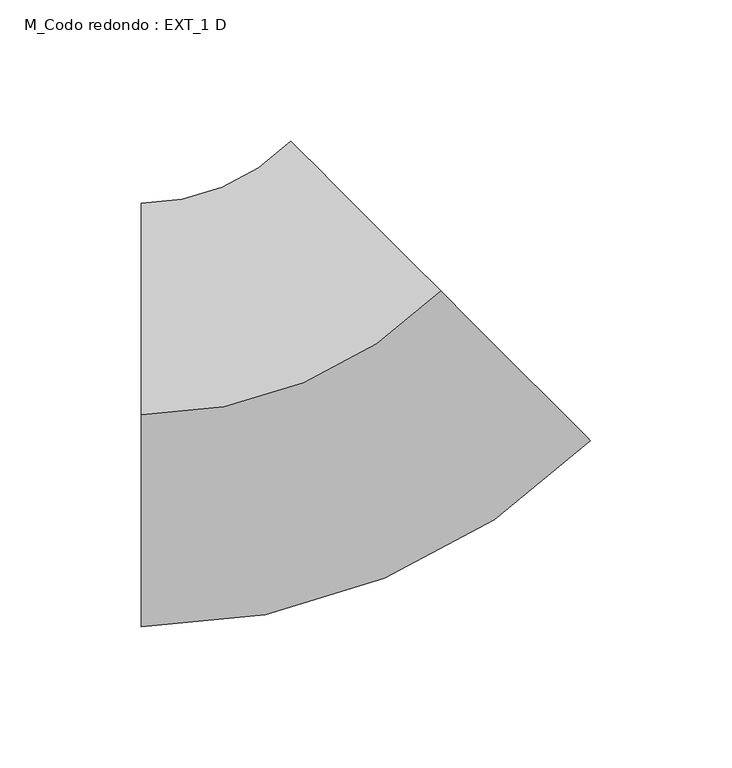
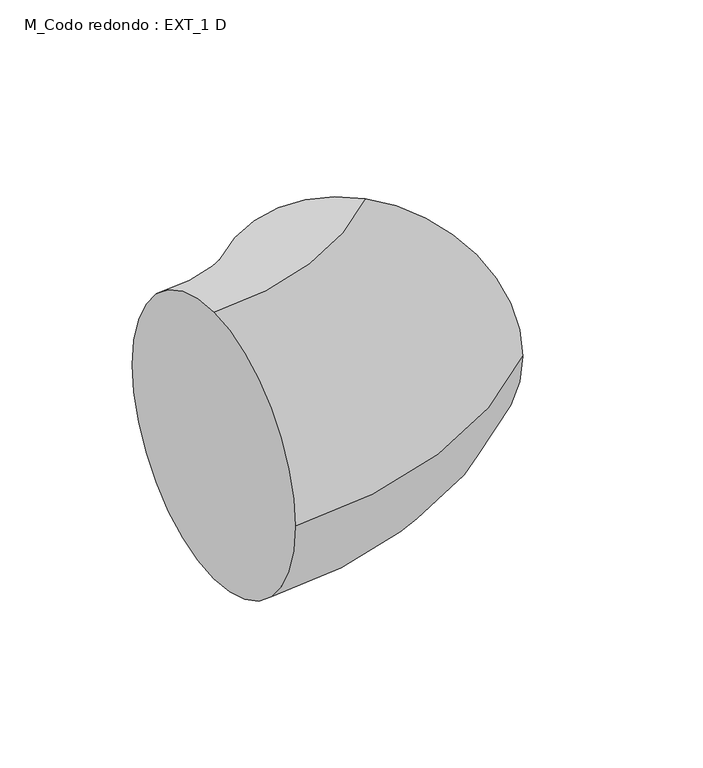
"""IFC4 building model written with IfcOpenShell, lengths in millimetres: duct fitting geometry, M_Codo redondo : EXT_1 D."""

from ifc_helpers import new_model, si_unit, point, frame, origin, place, context, project, spatial, circle_curve, ellipse_curve, trimmed, source, transform, mapped, element, save
from ifc_brep_helpers import plane_surface, revolved_surface, advanced_brep


def m_codo_redondo_ext_1_d_18db741d(model_context):
    return source(origin(), model_context, "Body", "AdvancedBrep", [
        advanced_brep(
        [(-62.1320344, 0.0, 75.0), (-62.1320344, 75.0, 0.0), (-62.1320344, 0.0, -75.0), (-62.1320344, -75.0, 0.0), (43.9339828, 43.9339828, 75.0), (96.9669914, -9.0990258, 0.0), (43.9339828, 43.9339828, -75.0), (-9.0990258, 96.9669914, 0.0)],
        [
            (0, 1, circle_curve(frame((-62.1320344, 0.0, 0.0), z_axis=(-1.0, 0.0, 0.0), x_axis=(0.0, 1.0, 0.0)), 75.0)),
            (1, 2, circle_curve(frame((-62.1320344, 0.0, 0.0), z_axis=(-1.0, 0.0, 0.0), x_axis=(0.0, 1.0, 0.0)), 75.0)),
            (2, 3, circle_curve(frame((-62.1320344, 0.0, 0.0), z_axis=(-1.0, 0.0, 0.0), x_axis=(0.0, 1.0, 0.0)), 75.0)),
            (3, 0, circle_curve(frame((-62.1320344, 0.0, 0.0), z_axis=(-1.0, 0.0, 0.0), x_axis=(0.0, 1.0, 0.0)), 75.0)),
            (4, 5, circle_curve(frame((43.9339828, 43.9339828, 0.0), z_axis=(0.7071067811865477, 0.7071067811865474, 0.0), x_axis=(-0.7071067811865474, 0.7071067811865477, 0.0)), 75.0)),
            (5, 6, circle_curve(frame((43.9339828, 43.9339828, 0.0), z_axis=(0.7071067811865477, 0.7071067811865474, 0.0), x_axis=(-0.7071067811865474, 0.7071067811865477, 0.0)), 75.0)),
            (6, 7, circle_curve(frame((43.9339828, 43.9339828, 0.0), z_axis=(0.7071067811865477, 0.7071067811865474, 0.0), x_axis=(-0.7071067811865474, 0.7071067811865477, 0.0)), 75.0)),
            (7, 4, circle_curve(frame((43.9339828, 43.9339828, 0.0), z_axis=(0.7071067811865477, 0.7071067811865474, 0.0), x_axis=(-0.7071067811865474, 0.7071067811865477, 0.0)), 75.0)),
            (7, 1, circle_curve(frame((-62.1320344, 150.0, 0.0), z_axis=(0.0, 0.0, -1.0), x_axis=(0.0, -1.0, 0.0)), 75.0)),
            (0, 4, circle_curve(frame((-62.1320344, 150.0, 75.0), z_axis=(0.0, 0.0, 1.0), x_axis=(0.0, -1.0, 0.0)), 150.0)),
            (6, 2, circle_curve(frame((-62.1320344, 150.0, -75.0), z_axis=(0.0, 0.0, -1.0), x_axis=(0.0, -1.0, 0.0)), 150.0)),
            (5, 3, circle_curve(frame((-62.1320344, 150.0, 0.0), z_axis=(0.0, 0.0, -1.0), x_axis=(0.0, -1.0, 0.0)), 225.0)),
        ],
        [
            plane_surface(frame((-62.1320344, 0.0, 0.0), z_axis=(-1.0, 0.0, 0.0), x_axis=(0.0, 0.0, 1.0))),
            plane_surface(frame((43.9339828, 43.9339828, 0.0), z_axis=(0.7071067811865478, 0.7071067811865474, 0.0), x_axis=(0.0, 0.0, 1.0))),
            revolved_surface(trimmed(ellipse_curve(frame((-62.1320344, 0.0, 0.0), z_axis=(-1.0, 0.0, 0.0), x_axis=(0.0, 1.0, 0.0)), 75.0, 75.0), [point((-62.1320344, 0.0, 75.0))], [point((-62.1320344, 75.0, 0.0))], True, "CARTESIAN"), (-62.1320344, 150.0, 0.0), (0.0, 0.0, 1.0)),
            revolved_surface(trimmed(ellipse_curve(frame((-62.1320344, 0.0, 0.0), z_axis=(-1.0, 0.0, 0.0), x_axis=(0.0, 1.0, 0.0)), 75.0, 75.0), [point((-62.1320344, 75.0, 0.0))], [point((-62.1320344, 0.0, -75.0))], True, "CARTESIAN"), (-62.1320344, 150.0, 0.0), (0.0, 0.0, 1.0)),
            revolved_surface(trimmed(ellipse_curve(frame((-62.1320344, 0.0, 0.0), z_axis=(-1.0, 0.0, 0.0), x_axis=(0.0, 1.0, 0.0)), 75.0, 75.0), [point((-62.1320344, 0.0, -75.0))], [point((-62.1320344, -75.0, 0.0))], True, "CARTESIAN"), (-62.1320344, 150.0, 0.0), (0.0, 0.0, 1.0)),
            revolved_surface(trimmed(ellipse_curve(frame((-62.1320344, 0.0, 0.0), z_axis=(-1.0, 0.0, 0.0), x_axis=(0.0, 1.0, 0.0)), 75.0, 75.0), [point((-62.1320344, -75.0, 0.0))], [point((-62.1320344, 0.0, 75.0))], True, "CARTESIAN"), (-62.1320344, 150.0, 0.0), (0.0, 0.0, 1.0)),
        ],
        [
            (0, [[1, 2, 3, 4]]),
            (1, [[5, 6, 7, 8]]),
            (2, [[9, -1, 10, -8]]),
            (3, [[11, -2, -9, -7]]),
            (4, [[12, -3, -11, -6]]),
            (5, [[-10, -4, -12, -5]]),
        ],
    ),
    ])


if __name__ == "__main__":
    model = new_model("IFC4")
    model_context = context("Model", 3, world=origin())
    ifc_project = project(units=[si_unit("LENGTHUNIT", "METRE", prefix="MILLI")], contexts=[model_context])
    site = spatial("IfcSite", under=ifc_project)
    building = spatial("IfcBuilding", under=site)
    placement = place(None, origin())
    m_codo_redondo_ext_1_d_shape = m_codo_redondo_ext_1_d_18db741d(model_context)
    element("IfcDuctFitting", 1, ObjectType="M_Codo redondo : EXT_1 D", at=placement, inside=building, context=model_context, shape_type="MappedRepresentation", body=[
        mapped(m_codo_redondo_ext_1_d_shape, transform((0.0, 0.0, 0.0), x_axis=(1.0, 0.0, 0.0), y_axis=(0.0, 1.0, 0.0), z_axis=(0.0, 0.0, 1.0))),
    ])
    save(model, "model.ifc")
